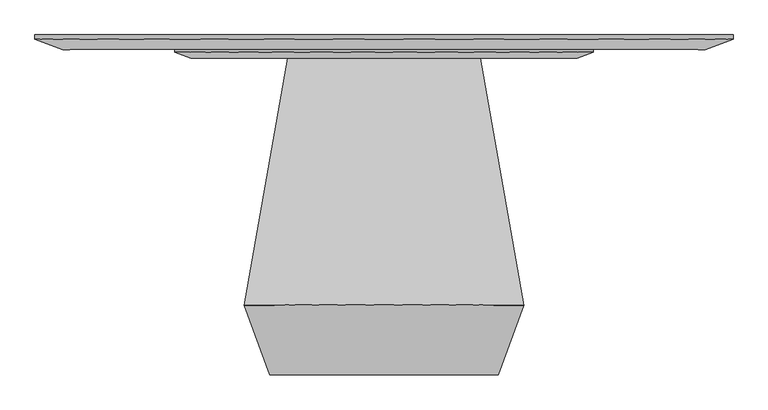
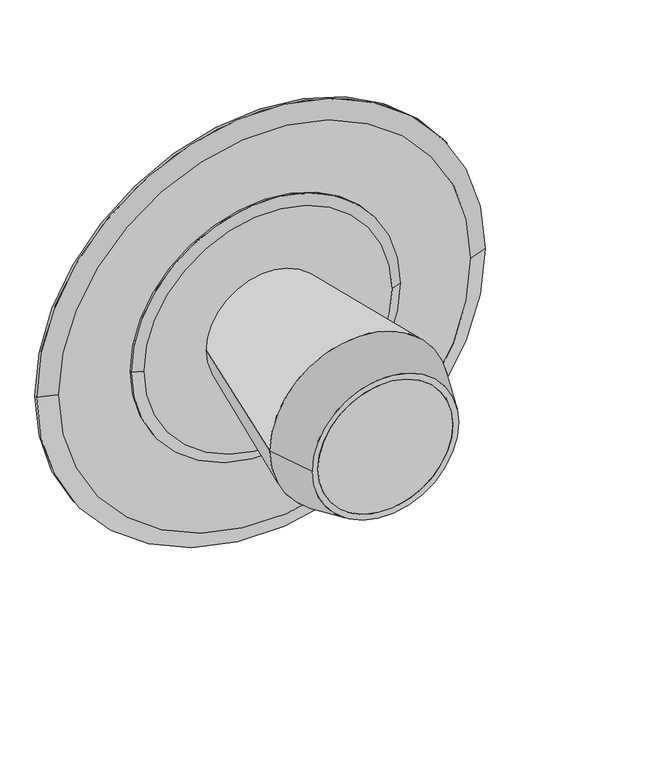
"""IFC4 building model written with IfcOpenShell, lengths in millimetres: proxy geometry, GRADIENT^TABLE 3_RADIUS DBL DRUM BASE-60 ROUND TOP."""

from ifc_helpers import new_model, si_unit, frame, origin, place, context, project, spatial, polyline, circle_curve, source, transform, mapped, element, save
from ifc_brep_helpers import plane_surface, cylinder_surface, revolved_surface, advanced_brep


def generic_models_f743511a(model_context):
    return source(origin(), model_context, "Body", "AdvancedBrep", [
        advanced_brep(
        [(457.2, 704.85, 0.0), (457.2, 711.2, 0.0), (-457.2, 711.2, 0.0), (-457.2, 704.85, 0.0), (-422.3070368, 692.15, 0.0), (422.3070368, 692.15, 0.0)],
        [
            (0, 1),
            (1, 2, circle_curve(frame((0.0, 711.2, 0.0), z_axis=(0.0, -1.0, 0.0), x_axis=(1.0, 0.0, 0.0)), 457.2)),
            (2, 3),
            (3, 0, circle_curve(frame((0.0, 704.85, 0.0), z_axis=(0.0, 1.0, 0.0), x_axis=(1.0, 0.0, 0.0)), 457.2)),
            (4, 3),
            (3, 0, circle_curve(frame((0.0, 704.85, 0.0), z_axis=(0.0, -1.0, 0.0), x_axis=(1.0, 0.0, 0.0)), 457.2)),
            (0, 5),
            (5, 4, circle_curve(frame((0.0, 692.15, 0.0), z_axis=(0.0, 1.0, 0.0), x_axis=(1.0, 0.0, 0.0)), 422.3070368)),
            (4, 5, circle_curve(frame((0.0, 692.15, 0.0), z_axis=(0.0, 1.0, 0.0), x_axis=(-1.0, 0.0, 0.0)), 422.3070368)),
            (2, 1, circle_curve(frame((0.0, 711.2, 0.0), z_axis=(0.0, -1.0, 0.0), x_axis=(1.0, 0.0, 0.0)), 457.2)),
        ],
        [
            cylinder_surface(frame((0.0, 692.15, 0.0), z_axis=(0.0, 1.0, 0.0), x_axis=(1.0, 0.0, 0.0)), 457.2),
            revolved_surface(polyline([(-422.30703677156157, 692.15, 0.0), (-457.2, 704.85, 0.0)]), (0.0, 538.4428089, 0.0), (0.0, 1.0, 0.0)),
            plane_surface(frame((0.0, 692.15, 0.0), z_axis=(0.0, -1.0, 0.0), x_axis=(0.0, 0.0, 1.0))),
            plane_surface(frame((0.0, 711.2, 0.0), z_axis=(0.0, 1.0, 0.0), x_axis=(0.0, 0.0, 1.0))),
        ],
        [
            (0, [[1, 2, 3, 4]]),
            (1, [[5, 6, 7, 8]]),
            (1, [[-5, 9, -7, -4]]),
            (0, [[-1, -6, -3, 10]]),
            (2, [[-8, -9]]),
            (3, [[-10, -2]]),
        ],
    ),
        advanced_brep(
        [(762.0, 733.425, 0.0), (762.0, 742.95, 0.0), (-762.0, 742.95, 0.0), (-762.0, 733.425, 0.0), (-700.9373144, 711.2, 0.0), (700.9373144, 711.2, 0.0)],
        [
            (0, 1),
            (1, 2, circle_curve(frame((0.0, 742.95, 0.0), z_axis=(0.0, -1.0, 0.0), x_axis=(1.0, 0.0, 0.0)), 762.0)),
            (2, 3),
            (3, 0, circle_curve(frame((0.0, 733.425, 0.0), z_axis=(0.0, 1.0, 0.0), x_axis=(1.0, 0.0, 0.0)), 762.0)),
            (4, 3),
            (3, 0, circle_curve(frame((0.0, 733.425, 0.0), z_axis=(0.0, -1.0, 0.0), x_axis=(1.0, 0.0, 0.0)), 762.0)),
            (0, 5),
            (5, 4, circle_curve(frame((0.0, 711.2, 0.0), z_axis=(0.0, 1.0, 0.0), x_axis=(1.0, 0.0, 0.0)), 700.9373144)),
            (4, 5, circle_curve(frame((0.0, 711.2, 0.0), z_axis=(0.0, 1.0, 0.0), x_axis=(-1.0, 0.0, 0.0)), 700.9373144)),
            (2, 1, circle_curve(frame((0.0, 742.95, 0.0), z_axis=(0.0, -1.0, 0.0), x_axis=(1.0, 0.0, 0.0)), 762.0)),
        ],
        [
            cylinder_surface(frame((0.0, 711.2, 0.0), z_axis=(0.0, 1.0, 0.0), x_axis=(1.0, 0.0, 0.0)), 762.0),
            revolved_surface(polyline([(-700.9373143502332, 711.2, 0.0), (-762.0, 733.425, 0.0)]), (0.0, 456.0796815, 0.0), (0.0, 1.0, 0.0)),
            plane_surface(frame((0.0, 711.2, 0.0), z_axis=(0.0, -1.0, 0.0), x_axis=(0.0, 0.0, 1.0))),
            plane_surface(frame((0.0, 742.95, 0.0), z_axis=(0.0, 1.0, 0.0), x_axis=(0.0, 0.0, 1.0))),
        ],
        [
            (0, [[1, 2, 3, 4]]),
            (1, [[5, 6, 7, 8]]),
            (1, [[-5, 9, -7, -4]]),
            (0, [[-1, -6, -3, 10]]),
            (2, [[-8, -9]]),
            (3, [[-10, -2]]),
        ],
    ),
        advanced_brep(
        [(249.3309363, 0.0, 0.0), (304.8, 152.4, 0.0), (-304.8, 152.4, 0.0), (-249.3309363, 0.0, 0.0), (229.0583497, 0.0, 0.0), (285.153037, 154.1188865, 0.0), (-285.153037, 154.1188865, 0.0), (-229.0583497, 0.0, 0.0)],
        [
            (0, 1),
            (1, 2, circle_curve(frame((0.0, 152.4, 0.0), z_axis=(0.0, -1.0, 0.0), x_axis=(-1.0, 0.0, 0.0)), 304.8)),
            (2, 3),
            (3, 0, circle_curve(frame((0.0, 0.0, 0.0), z_axis=(0.0, 1.0, 0.0), x_axis=(-1.0, 0.0, 0.0)), 249.3309363)),
            (4, 5),
            (5, 6, circle_curve(frame((0.0, 154.1188865, 0.0), z_axis=(0.0, 1.0, 0.0), x_axis=(1.0, 0.0, 0.0)), 285.153037)),
            (6, 7),
            (7, 4, circle_curve(frame((0.0, 0.0, 0.0), z_axis=(0.0, -1.0, 0.0), x_axis=(1.0, 0.0, 0.0)), 229.0583497)),
            (1, 5),
            (5, 6, circle_curve(frame((0.0, 154.1188865, 0.0), z_axis=(0.0, -1.0, 0.0), x_axis=(-1.0, 0.0, 0.0)), 285.153037)),
            (6, 2),
            (1, 2, circle_curve(frame((0.0, 152.4, 0.0), z_axis=(0.0, 1.0, 0.0), x_axis=(1.0, 0.0, 0.0)), 304.8)),
            (4, 7, circle_curve(frame((0.0, 0.0, 0.0), z_axis=(0.0, -1.0, 0.0), x_axis=(-1.0, 0.0, 0.0)), 229.0583497)),
            (3, 0, circle_curve(frame((0.0, 0.0, 0.0), z_axis=(0.0, -1.0, 0.0), x_axis=(1.0, 0.0, 0.0)), 249.3309363)),
        ],
        [
            revolved_surface(polyline([(249.3309362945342, 0.0, 0.0), (304.8, 152.39999999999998, 0.0)]), (0.0, -685.0311174, 0.0), (0.0, 1.0, 0.0)),
            revolved_surface(polyline([(285.153037, 154.11888650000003, 0.0), (229.05834976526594, 0.0, 0.0)]), (0.0, -629.3326436, 0.0), (0.0, 1.0, 0.0)),
            revolved_surface(polyline([(285.1530373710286, 154.1188865, 0.0), (304.8, 152.4, 0.0)]), (0.0, 179.0665446, 0.0), (0.0, -1.0, 0.0)),
            plane_surface(frame((249.3309363, 0.0, 0.0), z_axis=(0.0, -1.0, 0.0), x_axis=(0.0, 0.0, -1.0))),
        ],
        [
            (0, [[1, 2, 3, 4]]),
            (1, [[5, 6, 7, 8]]),
            (2, [[9, 10, 11, -2]]),
            (2, [[-9, 12, -11, -6]]),
            (1, [[-5, 13, -7, -10]]),
            (3, [[14, -4], [-8, -13]]),
            (0, [[-1, -14, -3, -12]]),
        ],
    ),
        advanced_brep(
        [(304.8, 152.4, 0.0), (209.6275122, 692.15, 0.0), (-209.6275122, 692.15, 0.0), (-304.8, 152.4, 0.0), (285.153037, 154.1188865, 0.0), (-285.153037, 154.1188865, 0.0), (190.2836352, 692.15, 0.0), (-190.2836352, 692.15, 0.0)],
        [
            (0, 1),
            (1, 2, circle_curve(frame((0.0, 692.15, 0.0), z_axis=(0.0, -1.0, 0.0), x_axis=(-1.0, 0.0, 0.0)), 209.6275122)),
            (2, 3),
            (3, 0, circle_curve(frame((0.0, 152.4, 0.0), z_axis=(0.0, 1.0, 0.0), x_axis=(-1.0, 0.0, 0.0)), 304.8)),
            (0, 4),
            (4, 5, circle_curve(frame((0.0, 154.1188865, 0.0), z_axis=(0.0, 1.0, 0.0), x_axis=(1.0, 0.0, 0.0)), 285.153037)),
            (5, 3),
            (3, 0, circle_curve(frame((0.0, 152.4, 0.0), z_axis=(0.0, -1.0, 0.0), x_axis=(1.0, 0.0, 0.0)), 304.8)),
            (4, 6),
            (6, 7, circle_curve(frame((0.0, 692.15, 0.0), z_axis=(0.0, 1.0, 0.0), x_axis=(1.0, 0.0, 0.0)), 190.2836352)),
            (7, 5),
            (1, 2, circle_curve(frame((0.0, 692.15, 0.0), z_axis=(0.0, 1.0, 0.0), x_axis=(1.0, 0.0, 0.0)), 209.6275122)),
            (6, 7, circle_curve(frame((0.0, 692.15, 0.0), z_axis=(0.0, -1.0, 0.0), x_axis=(-1.0, 0.0, 0.0)), 190.2836352)),
            (4, 5, circle_curve(frame((0.0, 154.1188865, 0.0), z_axis=(0.0, -1.0, 0.0), x_axis=(-1.0, 0.0, 0.0)), 285.153037)),
        ],
        [
            revolved_surface(polyline([(209.62751216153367, 692.1499999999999, 0.0), (304.8, 152.4000000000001, 0.0)]), (0.0, 1881.0066986, 0.0), (0.0, -1.0, 0.0)),
            revolved_surface(polyline([(304.8, 152.4, 0.0), (285.1530373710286, 154.1188865, 0.0)]), (0.0, 179.0665446, 0.0), (0.0, -1.0, 0.0)),
            revolved_surface(polyline([(285.153037, 154.11888649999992, 0.0), (190.28363522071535, 692.1499999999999, 0.0)]), (0.0, 1771.3021209, 0.0), (0.0, -1.0, 0.0)),
            plane_surface(frame((190.2836352, 692.15, 0.0), z_axis=(0.0, 1.0, 0.0), x_axis=(0.0, 0.0, 1.0))),
        ],
        [
            (0, [[1, 2, 3, 4]]),
            (1, [[5, 6, 7, 8]]),
            (2, [[9, 10, 11, -6]]),
            (3, [[12, -2], [-10, 13]]),
            (2, [[-9, 14, -11, -13]]),
            (1, [[-5, -4, -7, -14]]),
            (0, [[-1, -8, -3, -12]]),
        ],
    ),
        advanced_brep(
        [(229.0583497, 0.0, 0.0), (238.3031937, 25.4, 0.0), (-238.3031937, 25.4, 0.0), (-229.0583497, 0.0, 0.0)],
        [
            (0, 1),
            (1, 2, circle_curve(frame((0.0, 25.4, 0.0), z_axis=(0.0, -1.0, 0.0), x_axis=(-1.0, 0.0, 0.0)), 238.3031937)),
            (2, 3),
            (3, 0, circle_curve(frame((0.0, 0.0, 0.0), z_axis=(0.0, 1.0, 0.0), x_axis=(-1.0, 0.0, 0.0)), 229.0583497)),
            (0, 3, circle_curve(frame((0.0, 0.0, 0.0), z_axis=(0.0, 1.0, 0.0), x_axis=(1.0, 0.0, 0.0)), 229.0583497)),
            (2, 1, circle_curve(frame((0.0, 25.4, 0.0), z_axis=(0.0, -1.0, 0.0), x_axis=(1.0, 0.0, 0.0)), 238.3031937)),
        ],
        [
            revolved_surface(polyline([(229.05834974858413, 0.0, 0.0), (238.3031937, 25.399999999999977, 0.0)]), (0.0, -629.3326436, 0.0), (0.0, 1.0, 0.0)),
            plane_surface(frame((0.0, 25.4, 0.0), z_axis=(0.0, 1.0, 0.0), x_axis=(0.0, 0.0, 1.0))),
            plane_surface(frame((229.0583497, 0.0, 0.0), z_axis=(0.0, -1.0, 0.0), x_axis=(0.0, 0.0, -1.0))),
        ],
        [
            (0, [[1, 2, 3, 4]]),
            (0, [[-1, 5, -3, 6]]),
            (1, [[-6, -2]]),
            (2, [[-5, -4]]),
        ],
    ),
    ])


if __name__ == "__main__":
    model = new_model("IFC4")
    model_context = context("Model", 3, world=origin())
    ifc_project = project(units=[si_unit("LENGTHUNIT", "METRE", prefix="MILLI")], contexts=[model_context])
    site = spatial("IfcSite", under=ifc_project)
    building = spatial("IfcBuilding", under=site)
    placement = place(None, origin())
    generic_models_shape = generic_models_f743511a(model_context)
    element("IfcBuildingElementProxy", 1, Name="GRADIENT^TABLE 3_RADIUS DBL DRUM BASE-60 ROUND TOP", ObjectType="GRADIENT^TABLE 3_RADIUS DBL DRUM BASE-60 ROUND TOP", at=placement, inside=building, context=model_context, shape_type="MappedRepresentation", body=[
        mapped(generic_models_shape, transform((0.0, 0.0, 0.0), x_axis=(1.0, 0.0, 0.0), y_axis=(0.0, 1.0, 0.0), z_axis=(0.0, 0.0, 1.0))),
    ])
    save(model, "model.ifc")
